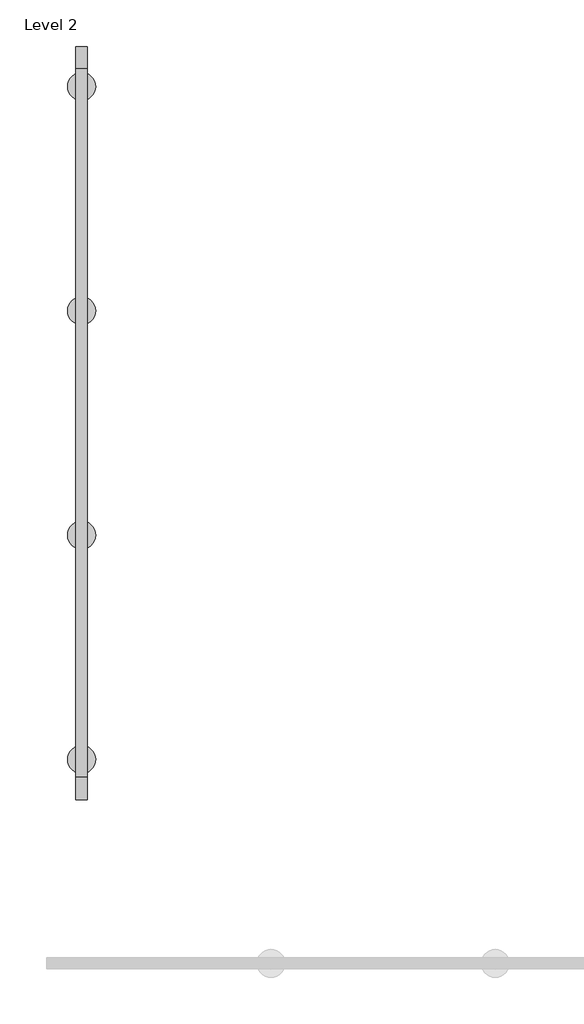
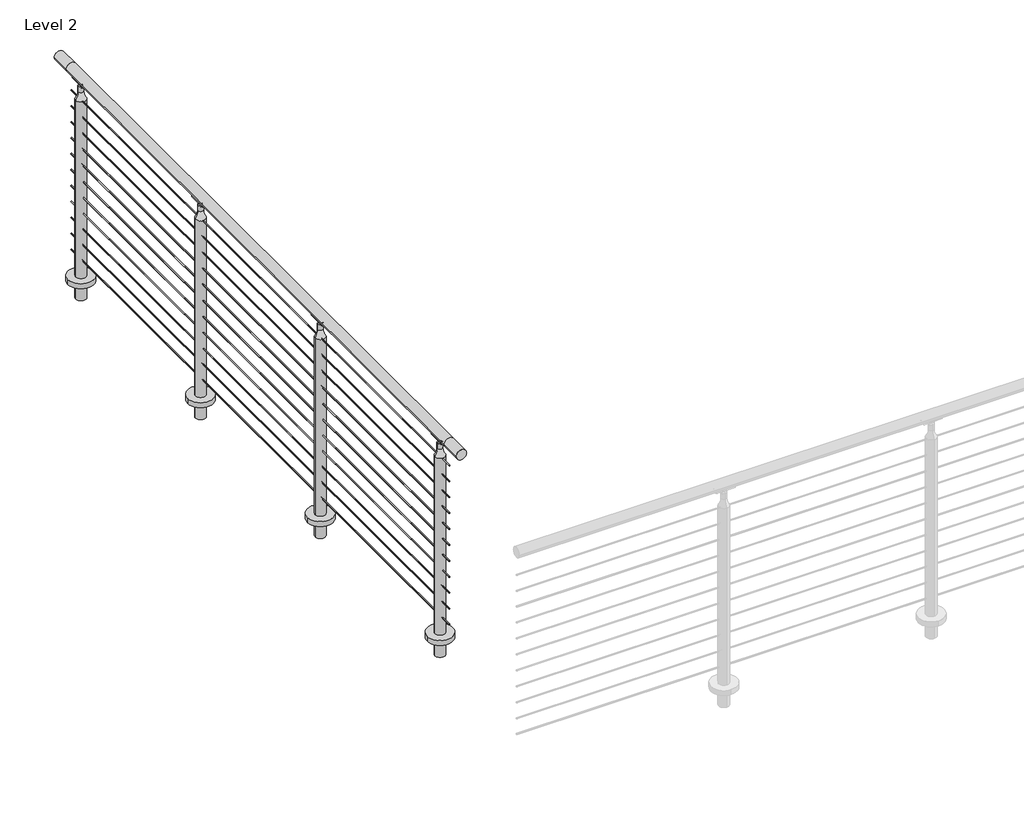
# One storey, part 19 of 21: 1 railing.
"""IFC4 building model written with IfcOpenShell, lengths in millimetres."""

from ifc_helpers import new_model, si_unit, point, frame, frame_2d, origin, place, context, project, spatial, polyline, circle_curve, ellipse_curve, trimmed, segment, composite_curve, outline, extrude, element, save
from ifc_brep_helpers import plane_surface, cylinder_surface, revolved_surface, advanced_brep

model = new_model("IFC4")

# Units and contexts
model_context = context("Model", 3, world=origin())
ifc_project = project(units=[si_unit("LENGTHUNIT", "METRE", prefix="MILLI")], contexts=[model_context])

# Site, building, storey
site = spatial("IfcSite", under=ifc_project)
building = spatial("IfcBuilding", under=site)
storey = spatial("IfcBuildingStorey", under=building, Name="Level 2", Elevation=3048.0)

# Railing
placement = place(None, origin())
element("IfcRailing", 1, ObjectType="VIVA-CIRCA-Cable-Core Mount-Straight", at=placement, inside=storey, context=model_context, shape_type="SolidModel", body=[
    advanced_brep(
    [(65907.3310647, -51362.5040223, 4102.1), (65856.5310647, -51362.5040223, 4102.1), (65907.3310647, -51260.9040223, 4102.1), (65856.5310647, -51260.9040223, 4102.1), (65907.3310647, -48053.4426165, 4102.1), (65856.5310647, -48053.4426165, 4102.1), (65907.3310647, -47951.8426165, 4102.1), (65856.5310647, -47951.8426165, 4102.1)],
    [
        (0, 1, circle_curve(frame((65881.9310647, -51362.5040223, 4102.1), z_axis=(0.0, -1.0, 0.0), x_axis=(-1.0, 0.0, 0.0)), 25.4)),
        (1, 0, circle_curve(frame((65881.9310647, -51362.5040223, 4102.1), z_axis=(0.0, -1.0, 0.0), x_axis=(-1.0, 0.0, 0.0)), 25.4)),
        (0, 2),
        (2, 3, circle_curve(frame((65881.9310647, -51260.9040223, 4102.1), z_axis=(0.0, -1.0, 0.0), x_axis=(-1.0, 0.0, 0.0)), 25.4)),
        (3, 1),
        (3, 2, circle_curve(frame((65881.9310647, -51260.9040223, 4102.1), z_axis=(0.0, -1.0, 0.0), x_axis=(-1.0, 0.0, 0.0)), 25.4)),
        (2, 4),
        (4, 5, circle_curve(frame((65881.9310647, -48053.4426165, 4102.1), z_axis=(0.0, -1.0, 0.0), x_axis=(-1.0, 0.0, 0.0)), 25.4)),
        (5, 3),
        (5, 4, circle_curve(frame((65881.9310647, -48053.4426165, 4102.1), z_axis=(0.0, -1.0, 0.0), x_axis=(-1.0, 0.0, 0.0)), 25.4)),
        (6, 7, circle_curve(frame((65881.9310647, -47951.8426165, 4102.1), z_axis=(0.0, 1.0, 0.0), x_axis=(-1.0, 0.0, 0.0)), 25.4)),
        (7, 6, circle_curve(frame((65881.9310647, -47951.8426165, 4102.1), z_axis=(0.0, 1.0, 0.0), x_axis=(-1.0, 0.0, 0.0)), 25.4)),
        (4, 6),
        (7, 5),
    ],
    [
        plane_surface(frame((65881.9310647, -51362.5040223, 4127.5), z_axis=(0.0, -1.0, 0.0), x_axis=(0.0, 0.0, 1.0))),
        cylinder_surface(frame((65881.9310647, -51362.5040223, 4102.1), z_axis=(0.0, -1.0, 0.0), x_axis=(-1.0, 0.0, 0.0)), 25.4),
        cylinder_surface(frame((65881.9310647, -51260.9040223, 4102.1), z_axis=(0.0, -1.0, 0.0), x_axis=(-1.0, 0.0, 0.0)), 25.4),
        plane_surface(frame((65881.9310647, -47951.8426165, 4127.5), z_axis=(0.0, 1.0, 0.0), x_axis=(0.0, 0.0, 1.0))),
        cylinder_surface(frame((65881.9310647, -48053.4426165, 4102.1), z_axis=(0.0, -1.0, 0.0), x_axis=(-1.0, 0.0, 0.0)), 25.4),
    ],
    [
        (0, [[1, 2]]),
        (1, [[-1, 3, 4, 5]]),
        (1, [[-2, -5, 6, -3]]),
        (2, [[-4, 7, 8, 9]]),
        (2, [[-6, -9, 10, -7]]),
        (3, [[11, 12]]),
        (4, [[-8, 13, -12, 14]]),
        (4, [[-10, -14, -11, -13]]),
    ],
),
    extrude(outline(composite_curve([segment(trimmed(circle_curve(frame_2d((3985.4124, 65881.9310647)), 2.3876), [point((3985.4124, 65884.3186647))], [point((3985.4124, 65879.5434647))], False, "CARTESIAN"), True, "CONTINUOUS"), segment(trimmed(circle_curve(frame_2d((3985.4124, 65881.9310647)), 2.3876), [point((3985.4124, 65879.5434647))], [point((3985.4124, 65884.3186647))], False, "CARTESIAN"), True, "CONTINUOUS")], self_intersect=False)), frame((0.0, -51260.9040223, 0.0), z_axis=(0.0, 1.0, 0.0), x_axis=(0.0, 0.0, 1.0)), (0.0, 0.0, 1.0), 3207.4614057),
    extrude(outline(composite_curve([segment(trimmed(circle_curve(frame_2d((3902.8624, 65881.9310647)), 2.3876), [point((3902.8624, 65884.3186647))], [point((3902.8624, 65879.5434647))], False, "CARTESIAN"), True, "CONTINUOUS"), segment(trimmed(circle_curve(frame_2d((3902.8624, 65881.9310647)), 2.3876), [point((3902.8624, 65879.5434647))], [point((3902.8624, 65884.3186647))], False, "CARTESIAN"), True, "CONTINUOUS")], self_intersect=False)), frame((0.0, -51260.9040223, 0.0), z_axis=(0.0, 1.0, 0.0), x_axis=(0.0, 0.0, 1.0)), (0.0, 0.0, 1.0), 3207.4614057),
    extrude(outline(composite_curve([segment(trimmed(circle_curve(frame_2d((3820.3124, 65881.9310647)), 2.3876), [point((3820.3124, 65884.3186647))], [point((3820.3124, 65879.5434647))], False, "CARTESIAN"), True, "CONTINUOUS"), segment(trimmed(circle_curve(frame_2d((3820.3124, 65881.9310647)), 2.3876), [point((3820.3124, 65879.5434647))], [point((3820.3124, 65884.3186647))], False, "CARTESIAN"), True, "CONTINUOUS")], self_intersect=False)), frame((0.0, -51260.9040223, 0.0), z_axis=(0.0, 1.0, 0.0), x_axis=(0.0, 0.0, 1.0)), (0.0, 0.0, 1.0), 3207.4614057),
    extrude(outline(composite_curve([segment(trimmed(circle_curve(frame_2d((3737.7624, 65881.9310647)), 2.3876), [point((3737.7624, 65884.3186647))], [point((3737.7624, 65879.5434647))], False, "CARTESIAN"), True, "CONTINUOUS"), segment(trimmed(circle_curve(frame_2d((3737.7624, 65881.9310647)), 2.3876), [point((3737.7624, 65879.5434647))], [point((3737.7624, 65884.3186647))], False, "CARTESIAN"), True, "CONTINUOUS")], self_intersect=False)), frame((0.0, -51260.9040223, 0.0), z_axis=(0.0, 1.0, 0.0), x_axis=(0.0, 0.0, 1.0)), (0.0, 0.0, 1.0), 3207.4614057),
    extrude(outline(composite_curve([segment(trimmed(circle_curve(frame_2d((3655.2124, 65881.9310647)), 2.3876), [point((3655.2124, 65884.3186647))], [point((3655.2124, 65879.5434647))], False, "CARTESIAN"), True, "CONTINUOUS"), segment(trimmed(circle_curve(frame_2d((3655.2124, 65881.9310647)), 2.3876), [point((3655.2124, 65879.5434647))], [point((3655.2124, 65884.3186647))], False, "CARTESIAN"), True, "CONTINUOUS")], self_intersect=False)), frame((0.0, -51260.9040223, 0.0), z_axis=(0.0, 1.0, 0.0), x_axis=(0.0, 0.0, 1.0)), (0.0, 0.0, 1.0), 3207.4614057),
    extrude(outline(composite_curve([segment(trimmed(circle_curve(frame_2d((3572.6624, 65881.9310647)), 2.3876), [point((3572.6624, 65884.3186647))], [point((3572.6624, 65879.5434647))], False, "CARTESIAN"), True, "CONTINUOUS"), segment(trimmed(circle_curve(frame_2d((3572.6624, 65881.9310647)), 2.3876), [point((3572.6624, 65879.5434647))], [point((3572.6624, 65884.3186647))], False, "CARTESIAN"), True, "CONTINUOUS")], self_intersect=False)), frame((0.0, -51260.9040223, 0.0), z_axis=(0.0, 1.0, 0.0), x_axis=(0.0, 0.0, 1.0)), (0.0, 0.0, 1.0), 3207.4614057),
    extrude(outline(composite_curve([segment(trimmed(circle_curve(frame_2d((3490.1124, 65881.9310647)), 2.3876), [point((3490.1124, 65884.3186647))], [point((3490.1124, 65879.5434647))], False, "CARTESIAN"), True, "CONTINUOUS"), segment(trimmed(circle_curve(frame_2d((3490.1124, 65881.9310647)), 2.3876), [point((3490.1124, 65879.5434647))], [point((3490.1124, 65884.3186647))], False, "CARTESIAN"), True, "CONTINUOUS")], self_intersect=False)), frame((0.0, -51260.9040223, 0.0), z_axis=(0.0, 1.0, 0.0), x_axis=(0.0, 0.0, 1.0)), (0.0, 0.0, 1.0), 3207.4614057),
    extrude(outline(composite_curve([segment(trimmed(circle_curve(frame_2d((3407.5624, 65881.9310647)), 2.3876), [point((3407.5624, 65884.3186647))], [point((3407.5624, 65879.5434647))], False, "CARTESIAN"), True, "CONTINUOUS"), segment(trimmed(circle_curve(frame_2d((3407.5624, 65881.9310647)), 2.3876), [point((3407.5624, 65879.5434647))], [point((3407.5624, 65884.3186647))], False, "CARTESIAN"), True, "CONTINUOUS")], self_intersect=False)), frame((0.0, -51260.9040223, 0.0), z_axis=(0.0, 1.0, 0.0), x_axis=(0.0, 0.0, 1.0)), (0.0, 0.0, 1.0), 3207.4614057),
    extrude(outline(composite_curve([segment(trimmed(circle_curve(frame_2d((3325.0124, 65881.9310647)), 2.3876), [point((3325.0124, 65884.3186647))], [point((3325.0124, 65879.5434647))], False, "CARTESIAN"), True, "CONTINUOUS"), segment(trimmed(circle_curve(frame_2d((3325.0124, 65881.9310647)), 2.3876), [point((3325.0124, 65879.5434647))], [point((3325.0124, 65884.3186647))], False, "CARTESIAN"), True, "CONTINUOUS")], self_intersect=False)), frame((0.0, -51260.9040223, 0.0), z_axis=(0.0, 1.0, 0.0), x_axis=(0.0, 0.0, 1.0)), (0.0, 0.0, 1.0), 3207.4614057),
    extrude(outline(composite_curve([segment(trimmed(circle_curve(frame_2d((3242.4624, 65881.9310647)), 2.3876), [point((3242.4624, 65884.3186647))], [point((3242.4624, 65879.5434647))], False, "CARTESIAN"), True, "CONTINUOUS"), segment(trimmed(circle_curve(frame_2d((3242.4624, 65881.9310647)), 2.3876), [point((3242.4624, 65879.5434647))], [point((3242.4624, 65884.3186647))], False, "CARTESIAN"), True, "CONTINUOUS")], self_intersect=False)), frame((0.0, -51260.9040223, 0.0), z_axis=(0.0, 1.0, 0.0), x_axis=(0.0, 0.0, 1.0)), (0.0, 0.0, 1.0), 3207.4614057),
    extrude(outline(composite_curve([segment(trimmed(circle_curve(frame_2d((3159.9124, 65881.9310647)), 2.3876), [point((3159.9124, 65884.3186647))], [point((3159.9124, 65879.5434647))], False, "CARTESIAN"), True, "CONTINUOUS"), segment(trimmed(circle_curve(frame_2d((3159.9124, 65881.9310647)), 2.3876), [point((3159.9124, 65879.5434647))], [point((3159.9124, 65884.3186647))], False, "CARTESIAN"), True, "CONTINUOUS")], self_intersect=False)), frame((0.0, -51260.9040223, 0.0), z_axis=(0.0, 1.0, 0.0), x_axis=(0.0, 0.0, 1.0)), (0.0, 0.0, 1.0), 3207.4614057),
    extrude(outline(composite_curve([segment(trimmed(circle_curve(frame_2d((65881.9310647, -48132.7764444)), 63.5), [point((65818.4310647, -48132.7764444))], [point((65945.4310647, -48132.7764444))], False, "CARTESIAN"), True, "CONTINUOUS"), segment(trimmed(circle_curve(frame_2d((65881.9310647, -48132.7764444)), 63.5), [point((65945.4310647, -48132.7764444))], [point((65818.4310647, -48132.7764444))], False, "CARTESIAN"), True, "CONTINUOUS")], self_intersect=False)), frame((0.0, 0.0, 3048.0), z_axis=(0.0, 0.0, 1.0), x_axis=(1.0, 0.0, 0.0)), (0.0, 0.0, 1.0), 25.4),
    extrude(outline(composite_curve([segment(trimmed(circle_curve(frame_2d((4078.7923545, 65867.9164325)), 2.9558141), [point((4081.3106679, 65869.4639902))], [point((4076.9214354, 65865.6280928))], False, "CARTESIAN"), True, "CONTINUOUS"), segment(trimmed(circle_curve(frame_2d((4104.1881188, 65881.89433)), 31.75), [point((4076.9214354, 65865.6280928))], [point((4076.3406769, 65897.144985))], False, "CARTESIAN"), True, "CONTINUOUS"), segment(trimmed(circle_curve(frame_2d((4078.7132623, 65895.66768)), 2.7949225), [point((4076.3406769, 65897.144985))], [point((4081.2157471, 65894.4230269))], False, "CARTESIAN"), True, "CONTINUOUS"), segment(trimmed(circle_curve(frame_2d((4103.4254922, 65882.0277931)), 25.4345159), [point((4081.2157471, 65894.4230269))], [point((4081.3106679, 65869.4639902))], True, "CARTESIAN"), True, "CONTINUOUS")], self_intersect=False)), frame((0.0, -48178.0138444, 0.0), z_axis=(0.0, 1.0, 0.0), x_axis=(0.0, 0.0, 1.0)), (0.0, 0.0, 1.0), 90.4748),
    advanced_brep(
    [(65884.4710647, -48105.7085295, 4072.6506908), (65884.4710647, -48159.8443593, 4072.6506908), (65884.4710647, -48145.4764444, 4058.282776), (65884.4710647, -48120.0764444, 4058.282776), (65879.3910647, -48105.7085295, 4072.6506908), (65879.3910647, -48120.0764444, 4058.282776), (65879.3910647, -48145.4764444, 4058.282776), (65879.3910647, -48159.8443593, 4072.6506908)],
    [
        (0, 1),
        (1, 2, circle_curve(frame((65884.4710647, -48159.8443593, 4058.282776), z_axis=(-1.0, 0.0, 0.0), x_axis=(0.0, -1.0, 0.0)), 14.3679149)),
        (2, 3, circle_curve(frame((65884.4710647, -48132.7764444, 4058.282776), z_axis=(1.0, 0.0, 0.0), x_axis=(0.0, -1.0, 0.0)), 12.7)),
        (3, 0, circle_curve(frame((65884.4710647, -48105.7085295, 4058.282776), z_axis=(-1.0, 0.0, 0.0), x_axis=(0.0, -1.0, 0.0)), 14.3679149)),
        (4, 5, circle_curve(frame((65879.3910647, -48105.7085295, 4058.282776), z_axis=(1.0, 0.0, 0.0), x_axis=(0.0, -1.0, 0.0)), 14.3679149)),
        (5, 6, circle_curve(frame((65879.3910647, -48132.7764444, 4058.282776), z_axis=(-1.0, 0.0, 0.0), x_axis=(0.0, -1.0, 0.0)), 12.7)),
        (6, 7, circle_curve(frame((65879.3910647, -48159.8443593, 4058.282776), z_axis=(1.0, 0.0, 0.0), x_axis=(0.0, -1.0, 0.0)), 14.3679149)),
        (7, 4),
        (3, 5),
        (4, 0),
        (2, 6),
        (1, 7),
    ],
    [
        plane_surface(frame((65884.4710647, -48120.0764444, 4058.282776), z_axis=(1.0, 0.0, 0.0), x_axis=(0.0, 0.0, -1.0))),
        plane_surface(frame((65879.3910647, -48120.0764444, 4058.282776), z_axis=(-1.0, 0.0, 0.0), x_axis=(0.0, 0.0, 1.0))),
        revolved_surface(polyline([(65879.3910647, -48120.0764444, 4058.282776), (65884.4710647, -48120.0764444, 4058.282776)]), (65879.3910647, -48105.7085295, 4058.282776), (-1.0, 0.0, 0.0)),
        cylinder_surface(frame((65879.3910647, -48132.7764444, 4058.282776), z_axis=(1.0, 0.0, 0.0), x_axis=(0.0, -1.0, 0.0)), 12.7),
        revolved_surface(polyline([(65879.3910647, -48174.2122742, 4058.282776), (65884.4710647, -48174.2122742, 4058.282776)]), (65879.3910647, -48159.8443593, 4058.282776), (-1.0, 0.0, 0.0)),
        plane_surface(frame((65884.4710647, -48159.8443593, 4072.6506908), z_axis=(0.0, 0.0, 1.0), x_axis=(-1.0, 0.0, 0.0))),
    ],
    [
        (0, [[1, 2, 3, 4]]),
        (1, [[5, 6, 7, 8]]),
        (2, [[9, -5, 10, -4]]),
        (3, [[11, -6, -9, -3]]),
        (4, [[12, -7, -11, -2]]),
        (5, [[-10, -8, -12, -1]]),
    ],
),
    advanced_brep(
    [(65856.5316669, -48132.7764444, 3989.1347854), (65856.5316669, -48132.7764444, 2959.1), (65907.3304625, -48132.7764444, 2959.1), (65907.3304625, -48132.7764444, 3989.1347854), (65869.1930962, -48132.7764444, 4027.3486202), (65894.6690333, -48132.7764444, 4027.3486202), (65869.1930962, -48132.7764444, 4056.5779599), (65894.6690333, -48132.7764444, 4056.5779599), (65881.9310647, -48132.7764444, 4063.238668), (65881.9310647, -48132.7764444, 2959.1)],
    [
        (0, 1),
        (1, 2, circle_curve(frame((65881.9310647, -48132.7764444, 2959.1), z_axis=(0.0, 0.0, 1.0), x_axis=(1.0, 0.0, 0.0)), 25.3993978)),
        (2, 3),
        (3, 0, circle_curve(frame((65881.9310647, -48132.7764444, 3989.1347854), z_axis=(0.0, 0.0, -1.0), x_axis=(1.0, 0.0, 0.0)), 25.3993978)),
        (2, 1, circle_curve(frame((65881.9310647, -48132.7764444, 2959.1), z_axis=(0.0, 0.0, 1.0), x_axis=(1.0, 0.0, 0.0)), 25.3993978)),
        (0, 3, circle_curve(frame((65881.9310647, -48132.7764444, 3989.1347854), z_axis=(0.0, 0.0, -1.0), x_axis=(1.0, 0.0, 0.0)), 25.3993978)),
        (4, 0, circle_curve(frame((65805.1952279, -48132.7764444, 4027.3486202), z_axis=(0.0, 1.0, 0.0), x_axis=(-1.0, 0.0, 0.0)), 63.9978683)),
        (3, 5, circle_curve(frame((65958.6669016, -48132.7764444, 4027.3486202), z_axis=(0.0, 1.0, 0.0), x_axis=(1.0, 0.0, 0.0)), 63.9978683)),
        (5, 4, circle_curve(frame((65881.9310647, -48132.7764444, 4027.3486202), z_axis=(0.0, 0.0, -1.0), x_axis=(1.0, 0.0, 0.0)), 12.7379685)),
        (4, 5, circle_curve(frame((65881.9310647, -48132.7764444, 4027.3486202), z_axis=(0.0, 0.0, -1.0), x_axis=(1.0, 0.0, 0.0)), 12.7379685)),
        (6, 4),
        (5, 7),
        (7, 6, circle_curve(frame((65881.9310647, -48132.7764444, 4056.5779599), z_axis=(0.0, 0.0, -1.0), x_axis=(1.0, 0.0, 0.0)), 12.7379685)),
        (6, 7, circle_curve(frame((65881.9310647, -48132.7764444, 4056.5779599), z_axis=(0.0, 0.0, -1.0), x_axis=(1.0, 0.0, 0.0)), 12.7379685)),
        (8, 6, circle_curve(frame((65881.9310647, -48132.7764444, 4047.7282394), z_axis=(0.0, -1.0, 0.0), x_axis=(-1.0, 0.0, 0.0)), 15.5104286)),
        (7, 8, circle_curve(frame((65881.9310647, -48132.7764444, 4047.7282394), z_axis=(0.0, -1.0, 0.0), x_axis=(1.0, 0.0, 0.0)), 15.5104286)),
        (1, 9),
        (9, 2),
    ],
    [
        cylinder_surface(frame((65881.9310647, -48132.7764444, 4152.9), z_axis=(0.0, 0.0, 1.0), x_axis=(1.0, 0.0, 0.0)), 25.3993978),
        revolved_surface(trimmed(ellipse_curve(frame((65958.6669016, -48132.7764444, 4027.3486202), z_axis=(0.0, 1.0, 0.0), x_axis=(1.0, 0.0, 0.0)), 63.9978683, 63.9978683), [point((65907.3304625, -48132.7764444, 3989.1347854))], [point((65894.6690333, -48132.7764444, 4027.3486202))], True, "CARTESIAN"), (65881.9310647, -48132.7764444, 4152.9), (0.0, 0.0, 1.0)),
        cylinder_surface(frame((65881.9310647, -48132.7764444, 4152.9), z_axis=(0.0, 0.0, 1.0), x_axis=(1.0, 0.0, 0.0)), 12.7379685),
        revolved_surface(trimmed(ellipse_curve(frame((65881.9310647, -48132.7764444, 4047.7282394), z_axis=(0.0, -1.0, 0.0), x_axis=(1.0, 0.0, 0.0)), 15.5104286, 15.5104286), [point((65894.6690333, -48132.7764444, 4056.5779599))], [point((65881.9310647, -48132.7764444, 4063.238668))], True, "CARTESIAN"), (65881.9310647, -48132.7764444, 4152.9), (0.0, 0.0, 1.0)),
        plane_surface(frame((65881.9310647, -48132.7764444, 2959.1), z_axis=(0.0, 0.0, -1.0), x_axis=(1.0, 0.0, 0.0))),
    ],
    [
        (0, [[1, 2, 3, 4]]),
        (0, [[-3, 5, -1, 6]]),
        (1, [[7, -4, 8, 9]]),
        (1, [[-8, -6, -7, 10]]),
        (2, [[11, -9, 12, 13]]),
        (2, [[-12, -10, -11, 14]]),
        (3, [[15, -13, 16]]),
        (3, [[-16, -14, -15]]),
        (4, [[17, 18, -2]]),
        (4, [[-18, -17, -5]]),
    ],
),
    extrude(outline(composite_curve([segment(trimmed(circle_curve(frame_2d((65881.9310647, -49148.7764444)), 63.5), [point((65818.4310647, -49148.7764444))], [point((65945.4310647, -49148.7764444))], False, "CARTESIAN"), True, "CONTINUOUS"), segment(trimmed(circle_curve(frame_2d((65881.9310647, -49148.7764444)), 63.5), [point((65945.4310647, -49148.7764444))], [point((65818.4310647, -49148.7764444))], False, "CARTESIAN"), True, "CONTINUOUS")], self_intersect=False)), frame((0.0, 0.0, 3048.0), z_axis=(0.0, 0.0, 1.0), x_axis=(1.0, 0.0, 0.0)), (0.0, 0.0, 1.0), 25.4),
    extrude(outline(composite_curve([segment(trimmed(circle_curve(frame_2d((4078.7923545, 65867.9164325)), 2.9558141), [point((4081.3106679, 65869.4639902))], [point((4076.9214354, 65865.6280928))], False, "CARTESIAN"), True, "CONTINUOUS"), segment(trimmed(circle_curve(frame_2d((4104.1881188, 65881.89433)), 31.75), [point((4076.9214354, 65865.6280928))], [point((4076.3406769, 65897.144985))], False, "CARTESIAN"), True, "CONTINUOUS"), segment(trimmed(circle_curve(frame_2d((4078.7132623, 65895.66768)), 2.7949225), [point((4076.3406769, 65897.144985))], [point((4081.2157471, 65894.4230269))], False, "CARTESIAN"), True, "CONTINUOUS"), segment(trimmed(circle_curve(frame_2d((4103.4254922, 65882.0277931)), 25.4345159), [point((4081.2157471, 65894.4230269))], [point((4081.3106679, 65869.4639902))], True, "CARTESIAN"), True, "CONTINUOUS")], self_intersect=False)), frame((0.0, -49194.0138444, 0.0), z_axis=(0.0, 1.0, 0.0), x_axis=(0.0, 0.0, 1.0)), (0.0, 0.0, 1.0), 90.4748),
    advanced_brep(
    [(65884.4710647, -49121.7085295, 4072.6506908), (65884.4710647, -49175.8443593, 4072.6506908), (65884.4710647, -49161.4764444, 4058.282776), (65884.4710647, -49136.0764444, 4058.282776), (65879.3910647, -49121.7085295, 4072.6506908), (65879.3910647, -49136.0764444, 4058.282776), (65879.3910647, -49161.4764444, 4058.282776), (65879.3910647, -49175.8443593, 4072.6506908)],
    [
        (0, 1),
        (1, 2, circle_curve(frame((65884.4710647, -49175.8443593, 4058.282776), z_axis=(-1.0, 0.0, 0.0), x_axis=(0.0, -1.0, 0.0)), 14.3679149)),
        (2, 3, circle_curve(frame((65884.4710647, -49148.7764444, 4058.282776), z_axis=(1.0, 0.0, 0.0), x_axis=(0.0, -1.0, 0.0)), 12.7)),
        (3, 0, circle_curve(frame((65884.4710647, -49121.7085295, 4058.282776), z_axis=(-1.0, 0.0, 0.0), x_axis=(0.0, -1.0, 0.0)), 14.3679149)),
        (4, 5, circle_curve(frame((65879.3910647, -49121.7085295, 4058.282776), z_axis=(1.0, 0.0, 0.0), x_axis=(0.0, -1.0, 0.0)), 14.3679149)),
        (5, 6, circle_curve(frame((65879.3910647, -49148.7764444, 4058.282776), z_axis=(-1.0, 0.0, 0.0), x_axis=(0.0, -1.0, 0.0)), 12.7)),
        (6, 7, circle_curve(frame((65879.3910647, -49175.8443593, 4058.282776), z_axis=(1.0, 0.0, 0.0), x_axis=(0.0, -1.0, 0.0)), 14.3679149)),
        (7, 4),
        (3, 5),
        (4, 0),
        (2, 6),
        (1, 7),
    ],
    [
        plane_surface(frame((65884.4710647, -49136.0764444, 4058.282776), z_axis=(1.0, 0.0, 0.0), x_axis=(0.0, 0.0, -1.0))),
        plane_surface(frame((65879.3910647, -49136.0764444, 4058.282776), z_axis=(-1.0, 0.0, 0.0), x_axis=(0.0, 0.0, 1.0))),
        revolved_surface(polyline([(65879.3910647, -49136.0764444, 4058.282776), (65884.4710647, -49136.0764444, 4058.282776)]), (65879.3910647, -49121.7085295, 4058.282776), (-1.0, 0.0, 0.0)),
        cylinder_surface(frame((65879.3910647, -49148.7764444, 4058.282776), z_axis=(1.0, 0.0, 0.0), x_axis=(0.0, -1.0, 0.0)), 12.7),
        revolved_surface(polyline([(65879.3910647, -49190.2122742, 4058.282776), (65884.4710647, -49190.2122742, 4058.282776)]), (65879.3910647, -49175.8443593, 4058.282776), (-1.0, 0.0, 0.0)),
        plane_surface(frame((65884.4710647, -49175.8443593, 4072.6506908), z_axis=(0.0, 0.0, 1.0), x_axis=(-1.0, 0.0, 0.0))),
    ],
    [
        (0, [[1, 2, 3, 4]]),
        (1, [[5, 6, 7, 8]]),
        (2, [[9, -5, 10, -4]]),
        (3, [[11, -6, -9, -3]]),
        (4, [[12, -7, -11, -2]]),
        (5, [[-10, -8, -12, -1]]),
    ],
),
    advanced_brep(
    [(65856.5316669, -49148.7764444, 3989.1347854), (65856.5316669, -49148.7764444, 2959.1), (65907.3304625, -49148.7764444, 2959.1), (65907.3304625, -49148.7764444, 3989.1347854), (65869.1930962, -49148.7764444, 4027.3486202), (65894.6690333, -49148.7764444, 4027.3486202), (65869.1930962, -49148.7764444, 4056.5779599), (65894.6690333, -49148.7764444, 4056.5779599), (65881.9310647, -49148.7764444, 4063.238668), (65881.9310647, -49148.7764444, 2959.1)],
    [
        (0, 1),
        (1, 2, circle_curve(frame((65881.9310647, -49148.7764444, 2959.1), z_axis=(0.0, 0.0, 1.0), x_axis=(1.0, 0.0, 0.0)), 25.3993978)),
        (2, 3),
        (3, 0, circle_curve(frame((65881.9310647, -49148.7764444, 3989.1347854), z_axis=(0.0, 0.0, -1.0), x_axis=(1.0, 0.0, 0.0)), 25.3993978)),
        (2, 1, circle_curve(frame((65881.9310647, -49148.7764444, 2959.1), z_axis=(0.0, 0.0, 1.0), x_axis=(1.0, 0.0, 0.0)), 25.3993978)),
        (0, 3, circle_curve(frame((65881.9310647, -49148.7764444, 3989.1347854), z_axis=(0.0, 0.0, -1.0), x_axis=(1.0, 0.0, 0.0)), 25.3993978)),
        (4, 0, circle_curve(frame((65805.1952279, -49148.7764444, 4027.3486202), z_axis=(0.0, 1.0, 0.0), x_axis=(-1.0, 0.0, 0.0)), 63.9978683)),
        (3, 5, circle_curve(frame((65958.6669016, -49148.7764444, 4027.3486202), z_axis=(0.0, 1.0, 0.0), x_axis=(1.0, 0.0, 0.0)), 63.9978683)),
        (5, 4, circle_curve(frame((65881.9310647, -49148.7764444, 4027.3486202), z_axis=(0.0, 0.0, -1.0), x_axis=(1.0, 0.0, 0.0)), 12.7379685)),
        (4, 5, circle_curve(frame((65881.9310647, -49148.7764444, 4027.3486202), z_axis=(0.0, 0.0, -1.0), x_axis=(1.0, 0.0, 0.0)), 12.7379685)),
        (6, 4),
        (5, 7),
        (7, 6, circle_curve(frame((65881.9310647, -49148.7764444, 4056.5779599), z_axis=(0.0, 0.0, -1.0), x_axis=(1.0, 0.0, 0.0)), 12.7379685)),
        (6, 7, circle_curve(frame((65881.9310647, -49148.7764444, 4056.5779599), z_axis=(0.0, 0.0, -1.0), x_axis=(1.0, 0.0, 0.0)), 12.7379685)),
        (8, 6, circle_curve(frame((65881.9310647, -49148.7764444, 4047.7282394), z_axis=(0.0, -1.0, 0.0), x_axis=(-1.0, 0.0, 0.0)), 15.5104286)),
        (7, 8, circle_curve(frame((65881.9310647, -49148.7764444, 4047.7282394), z_axis=(0.0, -1.0, 0.0), x_axis=(1.0, 0.0, 0.0)), 15.5104286)),
        (1, 9),
        (9, 2),
    ],
    [
        cylinder_surface(frame((65881.9310647, -49148.7764444, 4152.9), z_axis=(0.0, 0.0, 1.0), x_axis=(1.0, 0.0, 0.0)), 25.3993978),
        revolved_surface(trimmed(ellipse_curve(frame((65958.6669016, -49148.7764444, 4027.3486202), z_axis=(0.0, 1.0, 0.0), x_axis=(1.0, 0.0, 0.0)), 63.9978683, 63.9978683), [point((65907.3304625, -49148.7764444, 3989.1347854))], [point((65894.6690333, -49148.7764444, 4027.3486202))], True, "CARTESIAN"), (65881.9310647, -49148.7764444, 4152.9), (0.0, 0.0, 1.0)),
        cylinder_surface(frame((65881.9310647, -49148.7764444, 4152.9), z_axis=(0.0, 0.0, 1.0), x_axis=(1.0, 0.0, 0.0)), 12.7379685),
        revolved_surface(trimmed(ellipse_curve(frame((65881.9310647, -49148.7764444, 4047.7282394), z_axis=(0.0, -1.0, 0.0), x_axis=(1.0, 0.0, 0.0)), 15.5104286, 15.5104286), [point((65894.6690333, -49148.7764444, 4056.5779599))], [point((65881.9310647, -49148.7764444, 4063.238668))], True, "CARTESIAN"), (65881.9310647, -49148.7764444, 4152.9), (0.0, 0.0, 1.0)),
        plane_surface(frame((65881.9310647, -49148.7764444, 2959.1), z_axis=(0.0, 0.0, -1.0), x_axis=(1.0, 0.0, 0.0))),
    ],
    [
        (0, [[1, 2, 3, 4]]),
        (0, [[-3, 5, -1, 6]]),
        (1, [[7, -4, 8, 9]]),
        (1, [[-8, -6, -7, 10]]),
        (2, [[11, -9, 12, 13]]),
        (2, [[-12, -10, -11, 14]]),
        (3, [[15, -13, 16]]),
        (3, [[-16, -14, -15]]),
        (4, [[17, 18, -2]]),
        (4, [[-18, -17, -5]]),
    ],
),
    extrude(outline(composite_curve([segment(trimmed(circle_curve(frame_2d((65881.9310647, -50164.7764444)), 63.5), [point((65818.4310647, -50164.7764444))], [point((65945.4310647, -50164.7764444))], False, "CARTESIAN"), True, "CONTINUOUS"), segment(trimmed(circle_curve(frame_2d((65881.9310647, -50164.7764444)), 63.5), [point((65945.4310647, -50164.7764444))], [point((65818.4310647, -50164.7764444))], False, "CARTESIAN"), True, "CONTINUOUS")], self_intersect=False)), frame((0.0, 0.0, 3048.0), z_axis=(0.0, 0.0, 1.0), x_axis=(1.0, 0.0, 0.0)), (0.0, 0.0, 1.0), 25.4),
    extrude(outline(composite_curve([segment(trimmed(circle_curve(frame_2d((4078.7923545, 65867.9164325)), 2.9558141), [point((4081.3106679, 65869.4639902))], [point((4076.9214354, 65865.6280928))], False, "CARTESIAN"), True, "CONTINUOUS"), segment(trimmed(circle_curve(frame_2d((4104.1881188, 65881.89433)), 31.75), [point((4076.9214354, 65865.6280928))], [point((4076.3406769, 65897.144985))], False, "CARTESIAN"), True, "CONTINUOUS"), segment(trimmed(circle_curve(frame_2d((4078.7132623, 65895.66768)), 2.7949225), [point((4076.3406769, 65897.144985))], [point((4081.2157471, 65894.4230269))], False, "CARTESIAN"), True, "CONTINUOUS"), segment(trimmed(circle_curve(frame_2d((4103.4254922, 65882.0277931)), 25.4345159), [point((4081.2157471, 65894.4230269))], [point((4081.3106679, 65869.4639902))], True, "CARTESIAN"), True, "CONTINUOUS")], self_intersect=False)), frame((0.0, -50210.0138444, 0.0), z_axis=(0.0, 1.0, 0.0), x_axis=(0.0, 0.0, 1.0)), (0.0, 0.0, 1.0), 90.4748),
    advanced_brep(
    [(65884.4710647, -50137.7085295, 4072.6506908), (65884.4710647, -50191.8443593, 4072.6506908), (65884.4710647, -50177.4764444, 4058.282776), (65884.4710647, -50152.0764444, 4058.282776), (65879.3910647, -50137.7085295, 4072.6506908), (65879.3910647, -50152.0764444, 4058.282776), (65879.3910647, -50177.4764444, 4058.282776), (65879.3910647, -50191.8443593, 4072.6506908)],
    [
        (0, 1),
        (1, 2, circle_curve(frame((65884.4710647, -50191.8443593, 4058.282776), z_axis=(-1.0, 0.0, 0.0), x_axis=(0.0, -1.0, 0.0)), 14.3679149)),
        (2, 3, circle_curve(frame((65884.4710647, -50164.7764444, 4058.282776), z_axis=(1.0, 0.0, 0.0), x_axis=(0.0, -1.0, 0.0)), 12.7)),
        (3, 0, circle_curve(frame((65884.4710647, -50137.7085295, 4058.282776), z_axis=(-1.0, 0.0, 0.0), x_axis=(0.0, -1.0, 0.0)), 14.3679149)),
        (4, 5, circle_curve(frame((65879.3910647, -50137.7085295, 4058.282776), z_axis=(1.0, 0.0, 0.0), x_axis=(0.0, -1.0, 0.0)), 14.3679149)),
        (5, 6, circle_curve(frame((65879.3910647, -50164.7764444, 4058.282776), z_axis=(-1.0, 0.0, 0.0), x_axis=(0.0, -1.0, 0.0)), 12.7)),
        (6, 7, circle_curve(frame((65879.3910647, -50191.8443593, 4058.282776), z_axis=(1.0, 0.0, 0.0), x_axis=(0.0, -1.0, 0.0)), 14.3679149)),
        (7, 4),
        (3, 5),
        (4, 0),
        (2, 6),
        (1, 7),
    ],
    [
        plane_surface(frame((65884.4710647, -50152.0764444, 4058.282776), z_axis=(1.0, 0.0, 0.0), x_axis=(0.0, 0.0, -1.0))),
        plane_surface(frame((65879.3910647, -50152.0764444, 4058.282776), z_axis=(-1.0, 0.0, 0.0), x_axis=(0.0, 0.0, 1.0))),
        revolved_surface(polyline([(65879.3910647, -50152.0764444, 4058.282776), (65884.4710647, -50152.0764444, 4058.282776)]), (65879.3910647, -50137.7085295, 4058.282776), (-1.0, 0.0, 0.0)),
        cylinder_surface(frame((65879.3910647, -50164.7764444, 4058.282776), z_axis=(1.0, 0.0, 0.0), x_axis=(0.0, -1.0, 0.0)), 12.7),
        revolved_surface(polyline([(65879.3910647, -50206.2122742, 4058.282776), (65884.4710647, -50206.2122742, 4058.282776)]), (65879.3910647, -50191.8443593, 4058.282776), (-1.0, 0.0, 0.0)),
        plane_surface(frame((65884.4710647, -50191.8443593, 4072.6506908), z_axis=(0.0, 0.0, 1.0), x_axis=(-1.0, 0.0, 0.0))),
    ],
    [
        (0, [[1, 2, 3, 4]]),
        (1, [[5, 6, 7, 8]]),
        (2, [[9, -5, 10, -4]]),
        (3, [[11, -6, -9, -3]]),
        (4, [[12, -7, -11, -2]]),
        (5, [[-10, -8, -12, -1]]),
    ],
),
    advanced_brep(
    [(65856.5316669, -50164.7764444, 3989.1347854), (65856.5316669, -50164.7764444, 2959.1), (65907.3304625, -50164.7764444, 2959.1), (65907.3304625, -50164.7764444, 3989.1347854), (65869.1930962, -50164.7764444, 4027.3486202), (65894.6690333, -50164.7764444, 4027.3486202), (65869.1930962, -50164.7764444, 4056.5779599), (65894.6690333, -50164.7764444, 4056.5779599), (65881.9310647, -50164.7764444, 4063.238668), (65881.9310647, -50164.7764444, 2959.1)],
    [
        (0, 1),
        (1, 2, circle_curve(frame((65881.9310647, -50164.7764444, 2959.1), z_axis=(0.0, 0.0, 1.0), x_axis=(1.0, 0.0, 0.0)), 25.3993978)),
        (2, 3),
        (3, 0, circle_curve(frame((65881.9310647, -50164.7764444, 3989.1347854), z_axis=(0.0, 0.0, -1.0), x_axis=(1.0, 0.0, 0.0)), 25.3993978)),
        (2, 1, circle_curve(frame((65881.9310647, -50164.7764444, 2959.1), z_axis=(0.0, 0.0, 1.0), x_axis=(1.0, 0.0, 0.0)), 25.3993978)),
        (0, 3, circle_curve(frame((65881.9310647, -50164.7764444, 3989.1347854), z_axis=(0.0, 0.0, -1.0), x_axis=(1.0, 0.0, 0.0)), 25.3993978)),
        (4, 0, circle_curve(frame((65805.1952279, -50164.7764444, 4027.3486202), z_axis=(0.0, 1.0, 0.0), x_axis=(-1.0, 0.0, 0.0)), 63.9978683)),
        (3, 5, circle_curve(frame((65958.6669016, -50164.7764444, 4027.3486202), z_axis=(0.0, 1.0, 0.0), x_axis=(1.0, 0.0, 0.0)), 63.9978683)),
        (5, 4, circle_curve(frame((65881.9310647, -50164.7764444, 4027.3486202), z_axis=(0.0, 0.0, -1.0), x_axis=(1.0, 0.0, 0.0)), 12.7379685)),
        (4, 5, circle_curve(frame((65881.9310647, -50164.7764444, 4027.3486202), z_axis=(0.0, 0.0, -1.0), x_axis=(1.0, 0.0, 0.0)), 12.7379685)),
        (6, 4),
        (5, 7),
        (7, 6, circle_curve(frame((65881.9310647, -50164.7764444, 4056.5779599), z_axis=(0.0, 0.0, -1.0), x_axis=(1.0, 0.0, 0.0)), 12.7379685)),
        (6, 7, circle_curve(frame((65881.9310647, -50164.7764444, 4056.5779599), z_axis=(0.0, 0.0, -1.0), x_axis=(1.0, 0.0, 0.0)), 12.7379685)),
        (8, 6, circle_curve(frame((65881.9310647, -50164.7764444, 4047.7282394), z_axis=(0.0, -1.0, 0.0), x_axis=(-1.0, 0.0, 0.0)), 15.5104286)),
        (7, 8, circle_curve(frame((65881.9310647, -50164.7764444, 4047.7282394), z_axis=(0.0, -1.0, 0.0), x_axis=(1.0, 0.0, 0.0)), 15.5104286)),
        (1, 9),
        (9, 2),
    ],
    [
        cylinder_surface(frame((65881.9310647, -50164.7764444, 4152.9), z_axis=(0.0, 0.0, 1.0), x_axis=(1.0, 0.0, 0.0)), 25.3993978),
        revolved_surface(trimmed(ellipse_curve(frame((65958.6669016, -50164.7764444, 4027.3486202), z_axis=(0.0, 1.0, 0.0), x_axis=(1.0, 0.0, 0.0)), 63.9978683, 63.9978683), [point((65907.3304625, -50164.7764444, 3989.1347854))], [point((65894.6690333, -50164.7764444, 4027.3486202))], True, "CARTESIAN"), (65881.9310647, -50164.7764444, 4152.9), (0.0, 0.0, 1.0)),
        cylinder_surface(frame((65881.9310647, -50164.7764444, 4152.9), z_axis=(0.0, 0.0, 1.0), x_axis=(1.0, 0.0, 0.0)), 12.7379685),
        revolved_surface(trimmed(ellipse_curve(frame((65881.9310647, -50164.7764444, 4047.7282394), z_axis=(0.0, -1.0, 0.0), x_axis=(1.0, 0.0, 0.0)), 15.5104286, 15.5104286), [point((65894.6690333, -50164.7764444, 4056.5779599))], [point((65881.9310647, -50164.7764444, 4063.238668))], True, "CARTESIAN"), (65881.9310647, -50164.7764444, 4152.9), (0.0, 0.0, 1.0)),
        plane_surface(frame((65881.9310647, -50164.7764444, 2959.1), z_axis=(0.0, 0.0, -1.0), x_axis=(1.0, 0.0, 0.0))),
    ],
    [
        (0, [[1, 2, 3, 4]]),
        (0, [[-3, 5, -1, 6]]),
        (1, [[7, -4, 8, 9]]),
        (1, [[-8, -6, -7, 10]]),
        (2, [[11, -9, 12, 13]]),
        (2, [[-12, -10, -11, 14]]),
        (3, [[15, -13, 16]]),
        (3, [[-16, -14, -15]]),
        (4, [[17, 18, -2]]),
        (4, [[-18, -17, -5]]),
    ],
),
    extrude(outline(composite_curve([segment(trimmed(circle_curve(frame_2d((65881.9310647, -51180.7764444)), 63.5), [point((65818.4310647, -51180.7764444))], [point((65945.4310647, -51180.7764444))], False, "CARTESIAN"), True, "CONTINUOUS"), segment(trimmed(circle_curve(frame_2d((65881.9310647, -51180.7764444)), 63.5), [point((65945.4310647, -51180.7764444))], [point((65818.4310647, -51180.7764444))], False, "CARTESIAN"), True, "CONTINUOUS")], self_intersect=False)), frame((0.0, 0.0, 3048.0), z_axis=(0.0, 0.0, 1.0), x_axis=(1.0, 0.0, 0.0)), (0.0, 0.0, 1.0), 25.4),
    extrude(outline(composite_curve([segment(trimmed(circle_curve(frame_2d((4078.7923545, 65867.9164325)), 2.9558141), [point((4081.3106679, 65869.4639902))], [point((4076.9214354, 65865.6280928))], False, "CARTESIAN"), True, "CONTINUOUS"), segment(trimmed(circle_curve(frame_2d((4104.1881188, 65881.89433)), 31.75), [point((4076.9214354, 65865.6280928))], [point((4076.3406769, 65897.144985))], False, "CARTESIAN"), True, "CONTINUOUS"), segment(trimmed(circle_curve(frame_2d((4078.7132623, 65895.66768)), 2.7949225), [point((4076.3406769, 65897.144985))], [point((4081.2157471, 65894.4230269))], False, "CARTESIAN"), True, "CONTINUOUS"), segment(trimmed(circle_curve(frame_2d((4103.4254922, 65882.0277931)), 25.4345159), [point((4081.2157471, 65894.4230269))], [point((4081.3106679, 65869.4639902))], True, "CARTESIAN"), True, "CONTINUOUS")], self_intersect=False)), frame((0.0, -51226.0138444, 0.0), z_axis=(0.0, 1.0, 0.0), x_axis=(0.0, 0.0, 1.0)), (0.0, 0.0, 1.0), 90.4748),
    advanced_brep(
    [(65884.4710647, -51153.7085295, 4072.6506908), (65884.4710647, -51207.8443593, 4072.6506908), (65884.4710647, -51193.4764444, 4058.282776), (65884.4710647, -51168.0764444, 4058.282776), (65879.3910647, -51153.7085295, 4072.6506908), (65879.3910647, -51168.0764444, 4058.282776), (65879.3910647, -51193.4764444, 4058.282776), (65879.3910647, -51207.8443593, 4072.6506908)],
    [
        (0, 1),
        (1, 2, circle_curve(frame((65884.4710647, -51207.8443593, 4058.282776), z_axis=(-1.0, 0.0, 0.0), x_axis=(0.0, -1.0, 0.0)), 14.3679149)),
        (2, 3, circle_curve(frame((65884.4710647, -51180.7764444, 4058.282776), z_axis=(1.0, 0.0, 0.0), x_axis=(0.0, -1.0, 0.0)), 12.7)),
        (3, 0, circle_curve(frame((65884.4710647, -51153.7085295, 4058.282776), z_axis=(-1.0, 0.0, 0.0), x_axis=(0.0, -1.0, 0.0)), 14.3679149)),
        (4, 5, circle_curve(frame((65879.3910647, -51153.7085295, 4058.282776), z_axis=(1.0, 0.0, 0.0), x_axis=(0.0, -1.0, 0.0)), 14.3679149)),
        (5, 6, circle_curve(frame((65879.3910647, -51180.7764444, 4058.282776), z_axis=(-1.0, 0.0, 0.0), x_axis=(0.0, -1.0, 0.0)), 12.7)),
        (6, 7, circle_curve(frame((65879.3910647, -51207.8443593, 4058.282776), z_axis=(1.0, 0.0, 0.0), x_axis=(0.0, -1.0, 0.0)), 14.3679149)),
        (7, 4),
        (3, 5),
        (4, 0),
        (2, 6),
        (1, 7),
    ],
    [
        plane_surface(frame((65884.4710647, -51168.0764444, 4058.282776), z_axis=(1.0, 0.0, 0.0), x_axis=(0.0, 0.0, -1.0))),
        plane_surface(frame((65879.3910647, -51168.0764444, 4058.282776), z_axis=(-1.0, 0.0, 0.0), x_axis=(0.0, 0.0, 1.0))),
        revolved_surface(polyline([(65879.3910647, -51168.0764444, 4058.282776), (65884.4710647, -51168.0764444, 4058.282776)]), (65879.3910647, -51153.7085295, 4058.282776), (-1.0, 0.0, 0.0)),
        cylinder_surface(frame((65879.3910647, -51180.7764444, 4058.282776), z_axis=(1.0, 0.0, 0.0), x_axis=(0.0, -1.0, 0.0)), 12.7),
        revolved_surface(polyline([(65879.3910647, -51222.2122742, 4058.282776), (65884.4710647, -51222.2122742, 4058.282776)]), (65879.3910647, -51207.8443593, 4058.282776), (-1.0, 0.0, 0.0)),
        plane_surface(frame((65884.4710647, -51207.8443593, 4072.6506908), z_axis=(0.0, 0.0, 1.0), x_axis=(-1.0, 0.0, 0.0))),
    ],
    [
        (0, [[1, 2, 3, 4]]),
        (1, [[5, 6, 7, 8]]),
        (2, [[9, -5, 10, -4]]),
        (3, [[11, -6, -9, -3]]),
        (4, [[12, -7, -11, -2]]),
        (5, [[-10, -8, -12, -1]]),
    ],
),
    advanced_brep(
    [(65856.5316669, -51180.7764444, 3989.1347854), (65856.5316669, -51180.7764444, 2959.1), (65907.3304625, -51180.7764444, 2959.1), (65907.3304625, -51180.7764444, 3989.1347854), (65869.1930962, -51180.7764444, 4027.3486202), (65894.6690333, -51180.7764444, 4027.3486202), (65869.1930962, -51180.7764444, 4056.5779599), (65894.6690333, -51180.7764444, 4056.5779599), (65881.9310647, -51180.7764444, 4063.238668), (65881.9310647, -51180.7764444, 2959.1)],
    [
        (0, 1),
        (1, 2, circle_curve(frame((65881.9310647, -51180.7764444, 2959.1), z_axis=(0.0, 0.0, 1.0), x_axis=(1.0, 0.0, 0.0)), 25.3993978)),
        (2, 3),
        (3, 0, circle_curve(frame((65881.9310647, -51180.7764444, 3989.1347854), z_axis=(0.0, 0.0, -1.0), x_axis=(1.0, 0.0, 0.0)), 25.3993978)),
        (2, 1, circle_curve(frame((65881.9310647, -51180.7764444, 2959.1), z_axis=(0.0, 0.0, 1.0), x_axis=(1.0, 0.0, 0.0)), 25.3993978)),
        (0, 3, circle_curve(frame((65881.9310647, -51180.7764444, 3989.1347854), z_axis=(0.0, 0.0, -1.0), x_axis=(1.0, 0.0, 0.0)), 25.3993978)),
        (4, 0, circle_curve(frame((65805.1952279, -51180.7764444, 4027.3486202), z_axis=(0.0, 1.0, 0.0), x_axis=(-1.0, 0.0, 0.0)), 63.9978683)),
        (3, 5, circle_curve(frame((65958.6669016, -51180.7764444, 4027.3486202), z_axis=(0.0, 1.0, 0.0), x_axis=(1.0, 0.0, 0.0)), 63.9978683)),
        (5, 4, circle_curve(frame((65881.9310647, -51180.7764444, 4027.3486202), z_axis=(0.0, 0.0, -1.0), x_axis=(1.0, 0.0, 0.0)), 12.7379685)),
        (4, 5, circle_curve(frame((65881.9310647, -51180.7764444, 4027.3486202), z_axis=(0.0, 0.0, -1.0), x_axis=(1.0, 0.0, 0.0)), 12.7379685)),
        (6, 4),
        (5, 7),
        (7, 6, circle_curve(frame((65881.9310647, -51180.7764444, 4056.5779599), z_axis=(0.0, 0.0, -1.0), x_axis=(1.0, 0.0, 0.0)), 12.7379685)),
        (6, 7, circle_curve(frame((65881.9310647, -51180.7764444, 4056.5779599), z_axis=(0.0, 0.0, -1.0), x_axis=(1.0, 0.0, 0.0)), 12.7379685)),
        (8, 6, circle_curve(frame((65881.9310647, -51180.7764444, 4047.7282394), z_axis=(0.0, -1.0, 0.0), x_axis=(-1.0, 0.0, 0.0)), 15.5104286)),
        (7, 8, circle_curve(frame((65881.9310647, -51180.7764444, 4047.7282394), z_axis=(0.0, -1.0, 0.0), x_axis=(1.0, 0.0, 0.0)), 15.5104286)),
        (1, 9),
        (9, 2),
    ],
    [
        cylinder_surface(frame((65881.9310647, -51180.7764444, 4152.9), z_axis=(0.0, 0.0, 1.0), x_axis=(1.0, 0.0, 0.0)), 25.3993978),
        revolved_surface(trimmed(ellipse_curve(frame((65958.6669016, -51180.7764444, 4027.3486202), z_axis=(0.0, 1.0, 0.0), x_axis=(1.0, 0.0, 0.0)), 63.9978683, 63.9978683), [point((65907.3304625, -51180.7764444, 3989.1347854))], [point((65894.6690333, -51180.7764444, 4027.3486202))], True, "CARTESIAN"), (65881.9310647, -51180.7764444, 4152.9), (0.0, 0.0, 1.0)),
        cylinder_surface(frame((65881.9310647, -51180.7764444, 4152.9), z_axis=(0.0, 0.0, 1.0), x_axis=(1.0, 0.0, 0.0)), 12.7379685),
        revolved_surface(trimmed(ellipse_curve(frame((65881.9310647, -51180.7764444, 4047.7282394), z_axis=(0.0, -1.0, 0.0), x_axis=(1.0, 0.0, 0.0)), 15.5104286, 15.5104286), [point((65894.6690333, -51180.7764444, 4056.5779599))], [point((65881.9310647, -51180.7764444, 4063.238668))], True, "CARTESIAN"), (65881.9310647, -51180.7764444, 4152.9), (0.0, 0.0, 1.0)),
        plane_surface(frame((65881.9310647, -51180.7764444, 2959.1), z_axis=(0.0, 0.0, -1.0), x_axis=(1.0, 0.0, 0.0))),
    ],
    [
        (0, [[1, 2, 3, 4]]),
        (0, [[-3, 5, -1, 6]]),
        (1, [[7, -4, 8, 9]]),
        (1, [[-8, -6, -7, 10]]),
        (2, [[11, -9, 12, 13]]),
        (2, [[-12, -10, -11, 14]]),
        (3, [[15, -13, 16]]),
        (3, [[-16, -14, -15]]),
        (4, [[17, 18, -2]]),
        (4, [[-18, -17, -5]]),
    ],
),
])

save(model, "model.ifc")
